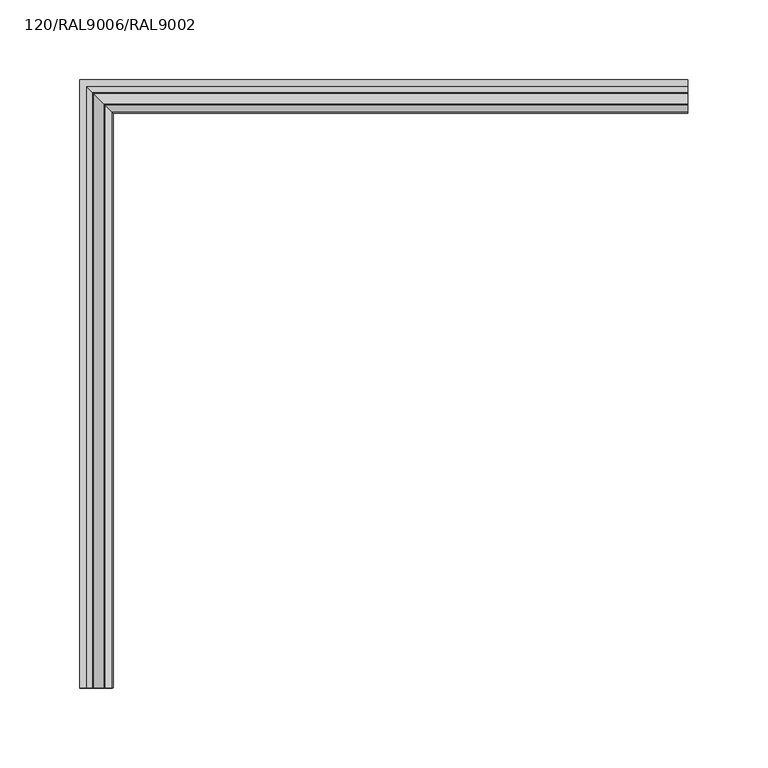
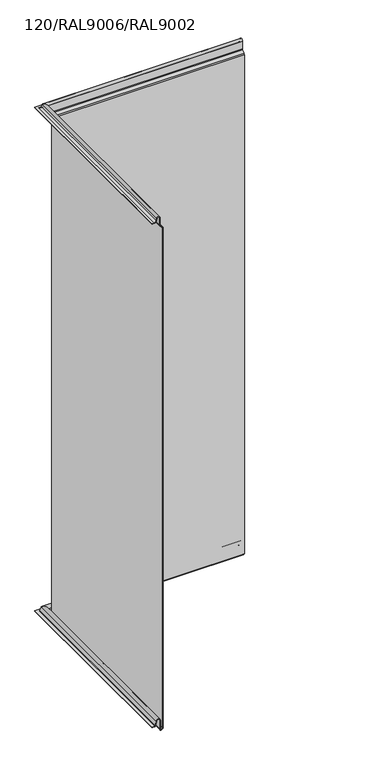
"""IFC4 building model written with IfcOpenShell, lengths in millimetres: plate geometry, TR_C_H_FHL_Corner_Tr_B : 120/RAL9006/RAL9002."""

from ifc_helpers import new_model, si_unit, frame, origin, place, context, project, spatial, polyline, circle_curve, ellipse_curve, source, transform, mapped, element, save
from ifc_brep_helpers import plane_surface, cylinder_surface, revolved_surface, advanced_brep


def plate_120_ral9006_ral9002_523d2fcc(model_context):
    return source(origin(), model_context, "Body", "AdvancedBrep", [
        advanced_brep(
        [(240.0, -120.0, 989.8218254), (240.0, -120.0, 0.4813708), (240.0, -119.1945436, -1.4631728), (240.0, -117.3288582, -3.3288582), (240.0, -114.0, -1.95), (240.0, -114.0, 15.65), (240.0, -107.1524133, 16.2490862), (240.0, -105.8160279, 8.6700685), (240.0, -103.9448932, 7.1), (240.0, -99.0, 7.1), (240.0, -99.0, 7.9), (240.0, -103.9448932, 7.9), (240.0, -105.0281817, 8.808987), (240.0, -106.364567, 16.3880048), (240.0, -114.8, 15.65), (240.0, -114.8, -1.95), (240.0, -116.7631728, -2.7631728), (240.0, -118.6288582, -0.8974874), (240.0, -119.2, 0.4813708), (240.0, -119.2, 989.8218254), (240.0, -118.5556349, 991.3774603), (240.0, -114.1665476, 995.7665476), (240.0, -113.2, 998.1), (240.0, -113.2, 1012.85), (240.0, -108.337221, 1013.275438), (240.0, -107.5939081, 1009.0599008), (240.0, -103.1130328, 1005.3), (240.0, -99.0, 1005.3), (240.0, -99.0, 1006.1), (240.0, -103.1130328, 1006.1), (240.0, -106.8060618, 1009.1988193), (240.0, -107.5493748, 1013.4143566), (240.0, -114.0, 1012.85), (240.0, -114.0, 998.1), (240.0, -114.732233, 996.332233), (240.0, -119.1213203, 991.9431458), (-120.0, -120.0, 989.8218254), (-120.0, -120.0, 0.4813708), (-120.8, -119.2, 0.4813708), (-120.8, -119.2, 989.8218254), (-120.0, -480.0, 989.8218254), (-120.8786797, -480.0, 991.9431458), (-125.267767, -480.0, 996.332233), (-126.0, -480.0, 998.1), (-126.0, -480.0, 1012.85), (-132.4506252, -480.0, 1013.4143566), (-133.1939382, -480.0, 1009.1988193), (-136.8869672, -480.0, 1006.1), (-141.0, -480.0, 1006.1), (-141.0, -480.0, 1005.3), (-136.8869672, -480.0, 1005.3), (-132.4060919, -480.0, 1009.0599008), (-131.662779, -480.0, 1013.275438), (-126.8, -480.0, 1012.85), (-126.8, -480.0, 998.1), (-125.8334524, -480.0, 995.7665476), (-121.4443651, -480.0, 991.3774603), (-120.8, -480.0, 989.8218254), (-120.8, -480.0, 0.4813708), (-121.3711418, -480.0, -0.8974874), (-123.2368272, -480.0, -2.7631728), (-125.2, -480.0, -1.95), (-125.2, -480.0, 15.65), (-133.635433, -480.0, 16.3880048), (-134.9718183, -480.0, 8.808987), (-136.0551068, -480.0, 7.9), (-141.0, -480.0, 7.9), (-141.0, -480.0, 7.1), (-136.0551068, -480.0, 7.1), (-134.1839721, -480.0, 8.6700685), (-132.8475867, -480.0, 16.2490862), (-126.0, -480.0, 15.65), (-126.0, -480.0, -1.95), (-122.6711418, -480.0, -3.3288582), (-120.8054564, -480.0, -1.4631728), (-120.0, -480.0, 0.4813708), (-120.8054564, -119.1945436, -1.4631728), (-122.6711418, -117.3288582, -3.3288582), (-126.0, -114.0, -1.95), (-126.0, -114.0, 15.65), (-132.8475867, -107.1524133, 16.2490862), (-134.1839721, -105.8160279, 8.6700685), (-136.0551068, -103.9448932, 7.1), (-141.0, -99.0, 7.1), (-141.0, -99.0, 7.9), (-136.0551068, -103.9448932, 7.9), (-134.9718183, -105.0281817, 8.808987), (-133.635433, -106.364567, 16.3880048), (-125.2, -114.8, 15.65), (-125.2, -114.8, -1.95), (-123.2368272, -116.7631728, -2.7631728), (-121.3711418, -118.6288582, -0.8974874), (-121.4443651, -118.5556349, 991.3774603), (-125.8334524, -114.1665476, 995.7665476), (-126.8, -113.2, 998.1), (-126.8, -113.2, 1012.85), (-131.662779, -108.337221, 1013.275438), (-132.4060919, -107.5939081, 1009.0599008), (-136.8869672, -103.1130328, 1005.3), (-141.0, -99.0, 1005.3), (-141.0, -99.0, 1006.1), (-136.8869672, -103.1130328, 1006.1), (-133.1939382, -106.8060618, 1009.1988193), (-132.4506252, -107.5493748, 1013.4143566), (-126.0, -114.0, 1012.85), (-126.0, -114.0, 998.1), (-125.267767, -114.732233, 996.332233), (-120.8786797, -119.1213203, 991.9431458)],
        [
            (0, 1),
            (1, 2, circle_curve(frame((240.0, -117.25, 0.4813708), z_axis=(1.0, 0.0, 0.0), x_axis=(0.0, -1.0, 0.0)), 2.75)),
            (2, 3),
            (3, 4, circle_curve(frame((240.0, -115.95, -1.95), z_axis=(1.0, 0.0, 0.0), x_axis=(0.0, -1.0, 0.0)), 1.95)),
            (4, 5),
            (5, 6, circle_curve(frame((240.0, -110.55, 15.65), z_axis=(-1.0, 0.0, 0.0), x_axis=(0.0, -1.0, 0.0)), 3.45)),
            (6, 7),
            (7, 8, circle_curve(frame((240.0, -103.9448932, 9.0), z_axis=(1.0, 0.0, 0.0), x_axis=(0.0, -1.0, 0.0)), 1.9)),
            (8, 9),
            (9, 10),
            (10, 11),
            (11, 12, circle_curve(frame((240.0, -103.9448932, 9.0), z_axis=(-1.0, 0.0, 0.0), x_axis=(0.0, -1.0, 0.0)), 1.1)),
            (12, 13),
            (13, 14, circle_curve(frame((240.0, -110.55, 15.65), z_axis=(1.0, 0.0, 0.0), x_axis=(0.0, -1.0, 0.0)), 4.25)),
            (14, 15),
            (15, 16, circle_curve(frame((240.0, -115.95, -1.95), z_axis=(-1.0, 0.0, 0.0), x_axis=(0.0, -1.0, 0.0)), 1.15)),
            (16, 17),
            (17, 18, circle_curve(frame((240.0, -117.25, 0.4813708), z_axis=(-1.0, 0.0, 0.0), x_axis=(0.0, -1.0, 0.0)), 1.95)),
            (18, 19),
            (19, 20, circle_curve(frame((240.0, -117.0, 989.8218254), z_axis=(-1.0, 0.0, 0.0), x_axis=(0.0, -1.0, 0.0)), 2.2)),
            (20, 21),
            (21, 22, circle_curve(frame((240.0, -116.5, 998.1), z_axis=(1.0, 0.0, 0.0), x_axis=(0.0, -1.0, 0.0)), 3.3)),
            (22, 23),
            (23, 24, circle_curve(frame((240.0, -110.75, 1012.85), z_axis=(-1.0, 0.0, 0.0), x_axis=(0.0, -1.0, 0.0)), 2.45)),
            (24, 25),
            (25, 26, circle_curve(frame((240.0, -103.1130328, 1009.85), z_axis=(1.0, 0.0, 0.0), x_axis=(0.0, -1.0, 0.0)), 4.55)),
            (26, 27),
            (27, 28),
            (28, 29),
            (29, 30, circle_curve(frame((240.0, -103.1130328, 1009.85), z_axis=(-1.0, 0.0, 0.0), x_axis=(0.0, -1.0, 0.0)), 3.75)),
            (30, 31),
            (31, 32, circle_curve(frame((240.0, -110.75, 1012.85), z_axis=(1.0, 0.0, 0.0), x_axis=(0.0, -1.0, 0.0)), 3.25)),
            (32, 33),
            (33, 34, circle_curve(frame((240.0, -116.5, 998.1), z_axis=(-1.0, 0.0, 0.0), x_axis=(0.0, -1.0, 0.0)), 2.5)),
            (34, 35),
            (35, 0, circle_curve(frame((240.0, -117.0, 989.8218254), z_axis=(1.0, 0.0, 0.0), x_axis=(0.0, -1.0, 0.0)), 3.0)),
            (0, 36),
            (36, 37),
            (37, 1),
            (18, 38),
            (38, 39),
            (39, 19),
            (40, 41, circle_curve(frame((-123.0, -480.0, 989.8218254), z_axis=(0.0, -1.0, 0.0), x_axis=(1.0, 0.0, 0.0)), 3.0)),
            (41, 42),
            (42, 43, circle_curve(frame((-123.5, -480.0, 998.1), z_axis=(0.0, 1.0, 0.0), x_axis=(1.0, 0.0, 0.0)), 2.5)),
            (43, 44),
            (44, 45, circle_curve(frame((-129.25, -480.0, 1012.85), z_axis=(0.0, -1.0, 0.0), x_axis=(1.0, 0.0, 0.0)), 3.25)),
            (45, 46),
            (46, 47, circle_curve(frame((-136.8869672, -480.0, 1009.85), z_axis=(0.0, 1.0, 0.0), x_axis=(1.0, 0.0, 0.0)), 3.75)),
            (47, 48),
            (48, 49),
            (49, 50),
            (50, 51, circle_curve(frame((-136.8869672, -480.0, 1009.85), z_axis=(0.0, -1.0, 0.0), x_axis=(1.0, 0.0, 0.0)), 4.55)),
            (51, 52),
            (52, 53, circle_curve(frame((-129.25, -480.0, 1012.85), z_axis=(0.0, 1.0, 0.0), x_axis=(1.0, 0.0, 0.0)), 2.45)),
            (53, 54),
            (54, 55, circle_curve(frame((-123.5, -480.0, 998.1), z_axis=(0.0, -1.0, 0.0), x_axis=(1.0, 0.0, 0.0)), 3.3)),
            (55, 56),
            (56, 57, circle_curve(frame((-123.0, -480.0, 989.8218254), z_axis=(0.0, 1.0, 0.0), x_axis=(1.0, 0.0, 0.0)), 2.2)),
            (57, 58),
            (58, 59, circle_curve(frame((-122.75, -480.0, 0.4813708), z_axis=(0.0, 1.0, 0.0), x_axis=(1.0, 0.0, 0.0)), 1.95)),
            (59, 60),
            (60, 61, circle_curve(frame((-124.05, -480.0, -1.95), z_axis=(0.0, 1.0, 0.0), x_axis=(1.0, 0.0, 0.0)), 1.15)),
            (61, 62),
            (62, 63, circle_curve(frame((-129.45, -480.0, 15.65), z_axis=(0.0, -1.0, 0.0), x_axis=(1.0, 0.0, 0.0)), 4.25)),
            (63, 64),
            (64, 65, circle_curve(frame((-136.0551068, -480.0, 9.0), z_axis=(0.0, 1.0, 0.0), x_axis=(1.0, 0.0, 0.0)), 1.1)),
            (65, 66),
            (66, 67),
            (67, 68),
            (68, 69, circle_curve(frame((-136.0551068, -480.0, 9.0), z_axis=(0.0, -1.0, 0.0), x_axis=(1.0, 0.0, 0.0)), 1.9)),
            (69, 70),
            (70, 71, circle_curve(frame((-129.45, -480.0, 15.65), z_axis=(0.0, 1.0, 0.0), x_axis=(1.0, 0.0, 0.0)), 3.45)),
            (71, 72),
            (72, 73, circle_curve(frame((-124.05, -480.0, -1.95), z_axis=(0.0, -1.0, 0.0), x_axis=(1.0, 0.0, 0.0)), 1.95)),
            (73, 74),
            (74, 75, circle_curve(frame((-122.75, -480.0, 0.4813708), z_axis=(0.0, -1.0, 0.0), x_axis=(1.0, 0.0, 0.0)), 2.75)),
            (75, 40),
            (36, 40),
            (75, 37),
            (38, 58),
            (57, 39),
            (37, 76, ellipse_curve(frame((-122.75, -117.25, 0.4813708), z_axis=(0.7071067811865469, 0.7071067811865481, 0.0), x_axis=(0.7071067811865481, -0.7071067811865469, 0.0)), 3.8890873, 2.75)),
            (76, 2),
            (76, 77),
            (77, 3),
            (77, 78, ellipse_curve(frame((-124.05, -115.95, -1.95), z_axis=(0.7071067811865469, 0.7071067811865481, 0.0), x_axis=(0.7071067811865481, -0.7071067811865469, 0.0)), 2.7577164, 1.95)),
            (78, 4),
            (78, 79),
            (79, 5),
            (79, 80, ellipse_curve(frame((-129.45, -110.55, 15.65), z_axis=(-0.7071067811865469, -0.7071067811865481, 0.0), x_axis=(-0.7071067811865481, 0.7071067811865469, 0.0)), 4.8790368, 3.45)),
            (80, 6),
            (80, 81),
            (81, 7),
            (81, 82, ellipse_curve(frame((-136.0551068, -103.9448932, 9.0), z_axis=(0.7071067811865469, 0.7071067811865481, 0.0), x_axis=(0.7071067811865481, -0.7071067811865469, 0.0)), 2.6870058, 1.9)),
            (82, 8),
            (82, 68),
            (67, 83),
            (83, 9),
            (83, 84),
            (84, 10),
            (84, 66),
            (65, 85),
            (85, 11),
            (85, 86, ellipse_curve(frame((-136.0551068, -103.9448932, 9.0), z_axis=(-0.7071067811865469, -0.7071067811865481, 0.0), x_axis=(-0.7071067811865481, 0.7071067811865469, 0.0)), 1.5556349, 1.1)),
            (86, 12),
            (86, 87),
            (87, 13),
            (87, 88, ellipse_curve(frame((-129.45, -110.55, 15.65), z_axis=(0.7071067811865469, 0.7071067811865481, 0.0), x_axis=(0.7071067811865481, -0.7071067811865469, 0.0)), 6.0104076, 4.25)),
            (88, 14),
            (88, 89),
            (89, 15),
            (89, 90, ellipse_curve(frame((-124.05, -115.95, -1.95), z_axis=(-0.7071067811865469, -0.7071067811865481, 0.0), x_axis=(-0.7071067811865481, 0.7071067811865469, 0.0)), 1.6263456, 1.15)),
            (90, 16),
            (90, 91),
            (91, 17),
            (91, 38, ellipse_curve(frame((-122.75, -117.25, 0.4813708), z_axis=(-0.7071067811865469, -0.7071067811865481, 0.0), x_axis=(-0.7071067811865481, 0.7071067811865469, 0.0)), 2.7577164, 1.95)),
            (39, 92, ellipse_curve(frame((-123.0, -117.0, 989.8218254), z_axis=(-0.7071067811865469, -0.7071067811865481, 0.0), x_axis=(-0.7071067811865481, 0.7071067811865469, 0.0)), 3.1112698, 2.2)),
            (92, 20),
            (92, 93),
            (93, 21),
            (93, 94, ellipse_curve(frame((-123.5, -116.5, 998.1), z_axis=(0.7071067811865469, 0.7071067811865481, 0.0), x_axis=(0.7071067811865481, -0.7071067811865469, 0.0)), 4.6669048, 3.3)),
            (94, 22),
            (94, 95),
            (95, 23),
            (95, 96, ellipse_curve(frame((-129.25, -110.75, 1012.85), z_axis=(-0.7071067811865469, -0.7071067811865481, 0.0), x_axis=(-0.7071067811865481, 0.7071067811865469, 0.0)), 3.4648232, 2.45)),
            (96, 24),
            (96, 97),
            (97, 25),
            (97, 98, ellipse_curve(frame((-136.8869672, -103.1130328, 1009.85), z_axis=(0.7071067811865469, 0.7071067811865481, 0.0), x_axis=(0.7071067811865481, -0.7071067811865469, 0.0)), 6.4346717, 4.55)),
            (98, 26),
            (98, 50),
            (49, 99),
            (99, 27),
            (99, 100),
            (100, 28),
            (100, 48),
            (47, 101),
            (101, 29),
            (101, 102, ellipse_curve(frame((-136.8869672, -103.1130328, 1009.85), z_axis=(-0.7071067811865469, -0.7071067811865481, 0.0), x_axis=(-0.7071067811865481, 0.7071067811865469, 0.0)), 5.3033009, 3.75)),
            (102, 30),
            (102, 103),
            (103, 31),
            (103, 104, ellipse_curve(frame((-129.25, -110.75, 1012.85), z_axis=(0.7071067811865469, 0.7071067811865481, 0.0), x_axis=(0.7071067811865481, -0.7071067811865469, 0.0)), 4.5961941, 3.25)),
            (104, 32),
            (104, 105),
            (105, 33),
            (105, 106, ellipse_curve(frame((-123.5, -116.5, 998.1), z_axis=(-0.7071067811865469, -0.7071067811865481, 0.0), x_axis=(-0.7071067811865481, 0.7071067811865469, 0.0)), 3.5355339, 2.5)),
            (106, 34),
            (106, 107),
            (107, 35),
            (107, 36, ellipse_curve(frame((-123.0, -117.0, 989.8218254), z_axis=(0.7071067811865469, 0.7071067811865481, 0.0), x_axis=(0.7071067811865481, -0.7071067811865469, 0.0)), 4.2426407, 3.0)),
            (74, 76),
            (73, 77),
            (72, 78),
            (71, 79),
            (70, 80),
            (69, 81),
            (64, 86),
            (63, 87),
            (62, 88),
            (61, 89),
            (60, 90),
            (59, 91),
            (56, 92),
            (55, 93),
            (54, 94),
            (53, 95),
            (52, 96),
            (51, 97),
            (46, 102),
            (45, 103),
            (44, 104),
            (43, 105),
            (42, 106),
            (41, 107),
        ],
        [
            plane_surface(frame((240.0, 0.0, 0.0), z_axis=(1.0, 0.0, 0.0), x_axis=(0.0, 0.0, 1.0))),
            plane_surface(frame((240.0, -120.0, 989.8218254), z_axis=(0.0, -1.0, 0.0), x_axis=(-1.0, 0.0, 0.0))),
            plane_surface(frame((240.0, -119.2, 0.4813708), z_axis=(0.0, 1.0, 0.0), x_axis=(-1.0, 0.0, 0.0))),
            plane_surface(frame((-240.0, -480.0, 0.0), z_axis=(0.0, -1.0, 0.0), x_axis=(0.0, 0.0, 1.0))),
            plane_surface(frame((-120.0, -120.0, 989.8218254), z_axis=(1.0, 0.0, 0.0), x_axis=(0.0, -1.0, 0.0))),
            plane_surface(frame((-120.8, -119.2, 0.4813708), z_axis=(-1.0, 0.0, 0.0), x_axis=(0.0, -1.0, 0.0))),
            cylinder_surface(frame((240.0, -117.25, 0.4813708), z_axis=(1.0, 0.0, 0.0), x_axis=(0.0, -1.0, 0.0)), 2.75),
            plane_surface(frame((240.0, -119.1945436, -1.4631728), z_axis=(0.0, -0.7071067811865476, -0.7071067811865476), x_axis=(-1.0, 0.0, 0.0))),
            cylinder_surface(frame((240.0, -115.95, -1.95), z_axis=(1.0, 0.0, 0.0), x_axis=(0.0, -1.0, 0.0)), 1.95),
            plane_surface(frame((240.0, -114.0, -1.95), z_axis=(0.0, 1.0, 0.0), x_axis=(-1.0, 0.0, 0.0))),
            revolved_surface(polyline([(-132.90000000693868, -114.0, 15.65), (240.0, -114.0, 15.65)]), (240.0, -110.55, 15.65), (-1.0, 0.0, 0.0)),
            plane_surface(frame((240.0, -107.1524133, 16.2490862), z_axis=(0.0, -0.9848077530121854, -0.17364817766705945), x_axis=(-1.0, 0.0, 0.0))),
            cylinder_surface(frame((240.0, -103.9448932, 9.0), z_axis=(1.0, 0.0, 0.0), x_axis=(0.0, -1.0, 0.0)), 1.9),
            plane_surface(frame((240.0, -103.9448932, 7.1), z_axis=(0.0, 0.0, -1.0), x_axis=(-1.0, 0.0, 0.0))),
            plane_surface(frame((240.0, -99.0, 7.1), z_axis=(0.0, 1.0, 0.0), x_axis=(-1.0, 0.0, 0.0))),
            plane_surface(frame((240.0, -99.0, 7.9), z_axis=(0.0, 0.0, 1.0), x_axis=(-1.0, 0.0, 0.0))),
            revolved_surface(polyline([(-137.1551067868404, -105.04489319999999, 9.0), (240.0, -105.04489319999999, 9.0)]), (240.0, -103.9448932, 9.0), (-1.0, 0.0, 0.0)),
            plane_surface(frame((240.0, -105.0281817, 8.808987), z_axis=(0.0, 0.9848077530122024, 0.17364817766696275), x_axis=(-1.0, 0.0, 0.0))),
            cylinder_surface(frame((240.0, -110.55, 15.65), z_axis=(1.0, 0.0, 0.0), x_axis=(0.0, -1.0, 0.0)), 4.25),
            plane_surface(frame((240.0, -114.8, 15.65), z_axis=(0.0, -1.0, 0.0), x_axis=(-1.0, 0.0, 0.0))),
            revolved_surface(polyline([(-125.20000000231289, -117.10000000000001, -1.95), (240.0, -117.10000000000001, -1.95)]), (240.0, -115.95, -1.95), (-1.0, 0.0, 0.0)),
            plane_surface(frame((240.0, -116.7631728, -2.7631728), z_axis=(0.0, 0.7071067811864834, 0.7071067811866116), x_axis=(-1.0, 0.0, 0.0))),
            revolved_surface(polyline([(-124.69999996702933, -119.2, 0.4813708), (240.0, -119.2, 0.4813708)]), (240.0, -117.25, 0.4813708), (-1.0, 0.0, 0.0)),
            revolved_surface(polyline([(-125.19999997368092, -119.2, 989.8218254), (240.0, -119.2, 989.8218254)]), (240.0, -117.0, 989.8218254), (-1.0, 0.0, 0.0)),
            plane_surface(frame((240.0, -118.5556349, 991.3774603), z_axis=(0.0, 0.7071067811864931, -0.7071067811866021), x_axis=(-1.0, 0.0, 0.0))),
            cylinder_surface(frame((240.0, -116.5, 998.1), z_axis=(1.0, 0.0, 0.0), x_axis=(0.0, -1.0, 0.0)), 3.3),
            plane_surface(frame((240.0, -113.2, 998.1), z_axis=(0.0, 1.0, 0.0), x_axis=(-1.0, 0.0, 0.0))),
            revolved_surface(polyline([(-131.69999998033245, -113.2, 1012.85), (240.0, -113.2, 1012.85)]), (240.0, -110.75, 1012.85), (-1.0, 0.0, 0.0)),
            plane_surface(frame((240.0, -108.337221, 1013.275438), z_axis=(0.0, -0.9848077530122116, -0.17364817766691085), x_axis=(-1.0, 0.0, 0.0))),
            cylinder_surface(frame((240.0, -103.1130328, 1009.85), z_axis=(1.0, 0.0, 0.0), x_axis=(0.0, -1.0, 0.0)), 4.55),
            plane_surface(frame((240.0, -103.1130328, 1005.3), z_axis=(0.0, 0.0, -1.0), x_axis=(-1.0, 0.0, 0.0))),
            plane_surface(frame((240.0, -99.0, 1005.3), z_axis=(0.0, 1.0, 0.0), x_axis=(-1.0, 0.0, 0.0))),
            plane_surface(frame((240.0, -99.0, 1006.1), z_axis=(0.0, 0.0, 1.0), x_axis=(-1.0, 0.0, 0.0))),
            revolved_surface(polyline([(-140.6369672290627, -106.8630328, 1009.85), (240.0, -106.8630328, 1009.85)]), (240.0, -103.1130328, 1009.85), (-1.0, 0.0, 0.0)),
            plane_surface(frame((240.0, -106.8060618, 1009.1988193), z_axis=(0.0, 0.984807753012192, 0.17364817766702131), x_axis=(-1.0, 0.0, 0.0))),
            cylinder_surface(frame((240.0, -110.75, 1012.85), z_axis=(1.0, 0.0, 0.0), x_axis=(0.0, -1.0, 0.0)), 3.25),
            plane_surface(frame((240.0, -114.0, 1012.85), z_axis=(0.0, -1.0, 0.0), x_axis=(-1.0, 0.0, 0.0))),
            revolved_surface(polyline([(-126.0, -119.0, 998.1), (240.0, -119.0, 998.1)]), (240.0, -116.5, 998.1), (-1.0, 0.0, 0.0)),
            plane_surface(frame((240.0, -114.732233, 996.332233), z_axis=(0.0, -0.7071067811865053, 0.7071067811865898), x_axis=(-1.0, 0.0, 0.0))),
            cylinder_surface(frame((240.0, -117.0, 989.8218254), z_axis=(1.0, 0.0, 0.0), x_axis=(0.0, -1.0, 0.0)), 3.0),
            cylinder_surface(frame((-122.75, 0.0, 0.4813708), z_axis=(0.0, 1.0, 0.0), x_axis=(1.0, 0.0, 0.0)), 2.75),
            plane_surface(frame((-120.8054564, -119.1945436, -1.4631728), z_axis=(0.7071067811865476, 0.0, -0.7071067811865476), x_axis=(0.0, -1.0, 0.0))),
            cylinder_surface(frame((-124.05, 0.0, -1.95), z_axis=(0.0, 1.0, 0.0), x_axis=(1.0, 0.0, 0.0)), 1.95),
            plane_surface(frame((-126.0, -114.0, -1.95), z_axis=(-1.0, 0.0, 0.0), x_axis=(0.0, -1.0, 0.0))),
            revolved_surface(polyline([(-125.99999999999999, -480.0, 15.65), (-125.99999999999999, -107.09999999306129, 15.65)]), (-129.45, 0.0, 15.65), (0.0, -1.0, 0.0)),
            plane_surface(frame((-132.8475867, -107.1524133, 16.2490862), z_axis=(0.9848077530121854, 0.0, -0.17364817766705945), x_axis=(0.0, -1.0, 0.0))),
            cylinder_surface(frame((-136.0551068, 0.0, 9.0), z_axis=(0.0, 1.0, 0.0), x_axis=(1.0, 0.0, 0.0)), 1.9),
            plane_surface(frame((-141.0, -99.0, 7.1), z_axis=(-1.0, 0.0, 0.0), x_axis=(0.0, -1.0, 0.0))),
            revolved_surface(polyline([(-134.9551068, -480.0, 9.0), (-134.9551068, -102.84489321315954, 9.0)]), (-136.0551068, 0.0, 9.0), (0.0, -1.0, 0.0)),
            plane_surface(frame((-134.9718183, -105.0281817, 8.808987), z_axis=(-0.9848077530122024, 0.0, 0.17364817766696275), x_axis=(0.0, -1.0, 0.0))),
            cylinder_surface(frame((-129.45, 0.0, 15.65), z_axis=(0.0, 1.0, 0.0), x_axis=(1.0, 0.0, 0.0)), 4.25),
            plane_surface(frame((-125.2, -114.8, 15.65), z_axis=(1.0, 0.0, 0.0), x_axis=(0.0, -1.0, 0.0))),
            revolved_surface(polyline([(-122.89999999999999, -480.0, -1.95), (-122.89999999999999, -114.7999999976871, -1.95)]), (-124.05, 0.0, -1.95), (0.0, -1.0, 0.0)),
            plane_surface(frame((-123.2368272, -116.7631728, -2.7631728), z_axis=(-0.7071067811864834, 0.0, 0.7071067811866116), x_axis=(0.0, -1.0, 0.0))),
            revolved_surface(polyline([(-120.8, -480.0, 0.4813708), (-120.8, -115.30000003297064, 0.4813708)]), (-122.75, 0.0, 0.4813708), (0.0, -1.0, 0.0)),
            revolved_surface(polyline([(-120.8, -480.0, 989.8218254), (-120.8, -114.80000002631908, 989.8218254)]), (-123.0, 0.0, 989.8218254), (0.0, -1.0, 0.0)),
            plane_surface(frame((-121.4443651, -118.5556349, 991.3774603), z_axis=(-0.7071067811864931, 0.0, -0.7071067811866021), x_axis=(0.0, -1.0, 0.0))),
            cylinder_surface(frame((-123.5, 0.0, 998.1), z_axis=(0.0, 1.0, 0.0), x_axis=(1.0, 0.0, 0.0)), 3.3),
            plane_surface(frame((-126.8, -113.2, 998.1), z_axis=(-1.0, 0.0, 0.0), x_axis=(0.0, -1.0, 0.0))),
            revolved_surface(polyline([(-126.8, -480.0, 1012.85), (-126.8, -108.30000001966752, 1012.85)]), (-129.25, 0.0, 1012.85), (0.0, -1.0, 0.0)),
            plane_surface(frame((-131.662779, -108.337221, 1013.275438), z_axis=(0.9848077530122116, 0.0, -0.17364817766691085), x_axis=(0.0, -1.0, 0.0))),
            cylinder_surface(frame((-136.8869672, 0.0, 1009.85), z_axis=(0.0, 1.0, 0.0), x_axis=(1.0, 0.0, 0.0)), 4.55),
            plane_surface(frame((-141.0, -99.0, 1005.3), z_axis=(-1.0, 0.0, 0.0), x_axis=(0.0, -1.0, 0.0))),
            revolved_surface(polyline([(-133.1369672, -480.0, 1009.85), (-133.1369672, -99.36303277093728, 1009.85)]), (-136.8869672, 0.0, 1009.85), (0.0, -1.0, 0.0)),
            plane_surface(frame((-133.1939382, -106.8060618, 1009.1988193), z_axis=(-0.984807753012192, 0.0, 0.17364817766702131), x_axis=(0.0, -1.0, 0.0))),
            cylinder_surface(frame((-129.25, 0.0, 1012.85), z_axis=(0.0, 1.0, 0.0), x_axis=(1.0, 0.0, 0.0)), 3.25),
            plane_surface(frame((-126.0, -114.0, 1012.85), z_axis=(1.0, 0.0, 0.0), x_axis=(0.0, -1.0, 0.0))),
            revolved_surface(polyline([(-121.0, -480.0, 998.1), (-121.0, -114.0, 998.1)]), (-123.5, 0.0, 998.1), (0.0, -1.0, 0.0)),
            plane_surface(frame((-125.267767, -114.732233, 996.332233), z_axis=(0.7071067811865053, 0.0, 0.7071067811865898), x_axis=(0.0, -1.0, 0.0))),
            cylinder_surface(frame((-123.0, 0.0, 989.8218254), z_axis=(0.0, 1.0, 0.0), x_axis=(1.0, 0.0, 0.0)), 3.0),
        ],
        [
            (0, [[1, 2, 3, 4, 5, 6, 7, 8, 9, 10, 11, 12, 13, 14, 15, 16, 17, 18, 19, 20, 21, 22, 23, 24, 25, 26, 27, 28, 29, 30, 31, 32, 33, 34, 35, 36]]),
            (1, [[-1, 37, 38, 39]]),
            (2, [[-19, 40, 41, 42]]),
            (3, [[43, 44, 45, 46, 47, 48, 49, 50, 51, 52, 53, 54, 55, 56, 57, 58, 59, 60, 61, 62, 63, 64, 65, 66, 67, 68, 69, 70, 71, 72, 73, 74, 75, 76, 77, 78]]),
            (4, [[-38, 79, -78, 80]]),
            (5, [[-41, 81, -60, 82]]),
            (6, [[-2, -39, 83, 84]]),
            (7, [[-3, -84, 85, 86]]),
            (8, [[-4, -86, 87, 88]]),
            (9, [[-5, -88, 89, 90]]),
            (10, [[-6, -90, 91, 92]]),
            (11, [[-7, -92, 93, 94]]),
            (12, [[-8, -94, 95, 96]]),
            (13, [[-9, -96, 97, -70, 98, 99]]),
            (14, [[-10, -99, 100, 101]]),
            (15, [[-11, -101, 102, -68, 103, 104]]),
            (16, [[-12, -104, 105, 106]]),
            (17, [[-13, -106, 107, 108]]),
            (18, [[-14, -108, 109, 110]]),
            (19, [[-15, -110, 111, 112]]),
            (20, [[-16, -112, 113, 114]]),
            (21, [[-17, -114, 115, 116]]),
            (22, [[-18, -116, 117, -40]]),
            (23, [[-20, -42, 118, 119]]),
            (24, [[-21, -119, 120, 121]]),
            (25, [[-22, -121, 122, 123]]),
            (26, [[-23, -123, 124, 125]]),
            (27, [[-24, -125, 126, 127]]),
            (28, [[-25, -127, 128, 129]]),
            (29, [[-26, -129, 130, 131]]),
            (30, [[-27, -131, 132, -52, 133, 134]]),
            (31, [[-28, -134, 135, 136]]),
            (32, [[-29, -136, 137, -50, 138, 139]]),
            (33, [[-30, -139, 140, 141]]),
            (34, [[-31, -141, 142, 143]]),
            (35, [[-32, -143, 144, 145]]),
            (36, [[-33, -145, 146, 147]]),
            (37, [[-34, -147, 148, 149]]),
            (38, [[-35, -149, 150, 151]]),
            (39, [[-36, -151, 152, -37]]),
            (40, [[-83, -80, -77, 153]]),
            (41, [[-85, -153, -76, 154]]),
            (42, [[-87, -154, -75, 155]]),
            (43, [[-89, -155, -74, 156]]),
            (44, [[-91, -156, -73, 157]]),
            (45, [[-93, -157, -72, 158]]),
            (46, [[-95, -158, -71, -97]]),
            (47, [[-100, -98, -69, -102]]),
            (48, [[-105, -103, -67, 159]]),
            (49, [[-107, -159, -66, 160]]),
            (50, [[-109, -160, -65, 161]]),
            (51, [[-111, -161, -64, 162]]),
            (52, [[-113, -162, -63, 163]]),
            (53, [[-115, -163, -62, 164]]),
            (54, [[-117, -164, -61, -81]]),
            (55, [[-118, -82, -59, 165]]),
            (56, [[-120, -165, -58, 166]]),
            (57, [[-122, -166, -57, 167]]),
            (58, [[-124, -167, -56, 168]]),
            (59, [[-126, -168, -55, 169]]),
            (60, [[-128, -169, -54, 170]]),
            (61, [[-130, -170, -53, -132]]),
            (62, [[-135, -133, -51, -137]]),
            (63, [[-140, -138, -49, 171]]),
            (64, [[-142, -171, -48, 172]]),
            (65, [[-144, -172, -47, 173]]),
            (66, [[-146, -173, -46, 174]]),
            (67, [[-148, -174, -45, 175]]),
            (68, [[-150, -175, -44, 176]]),
            (69, [[-152, -176, -43, -79]]),
        ],
    ),
    ])


if __name__ == "__main__":
    model = new_model("IFC4")
    model_context = context("Model", 3, world=origin())
    ifc_project = project(units=[si_unit("LENGTHUNIT", "METRE", prefix="MILLI")], contexts=[model_context])
    site = spatial("IfcSite", under=ifc_project)
    building = spatial("IfcBuilding", under=site)
    placement = place(None, origin())
    plate_120_ral9006_ral9002_shape = plate_120_ral9006_ral9002_523d2fcc(model_context)
    element("IfcPlate", 1, ObjectType="TR_C_H_FHL_Corner_Tr_B : 120/RAL9006/RAL9002", at=placement, inside=building, context=model_context, shape_type="MappedRepresentation", body=[
        mapped(plate_120_ral9006_ral9002_shape, transform((0.0, 0.0, 0.0), x_axis=(1.0, 0.0, 0.0), y_axis=(0.0, 1.0, 0.0), z_axis=(0.0, 0.0, 1.0))),
    ])
    save(model, "model.ifc")
